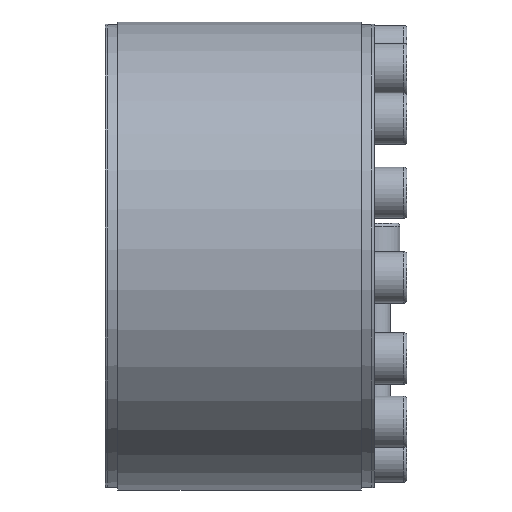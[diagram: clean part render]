
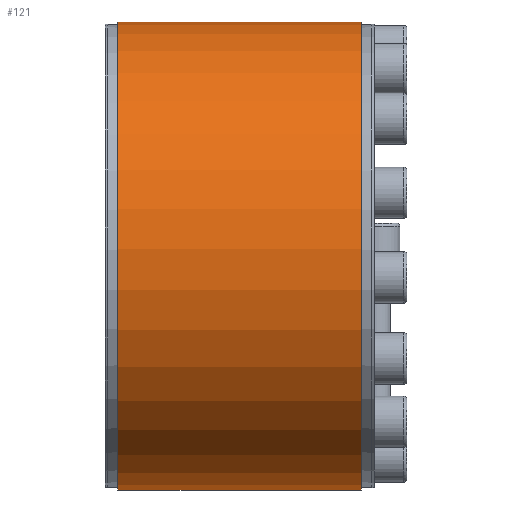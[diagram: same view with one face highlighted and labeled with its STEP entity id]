
A CAD part, left-side view. The second image highlights one B-rep face of the part: STEP entity #121.
In plain terms, the highlighted cylindrical face has radius 100 mm (diameter 200 mm), a partial arc.
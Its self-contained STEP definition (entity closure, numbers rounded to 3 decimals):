
#121 = ADVANCED_FACE( '', ( #317 ), #318, .T. );
#317 = FACE_OUTER_BOUND( '', #691, .T. );
#318 = CYLINDRICAL_SURFACE( '', #692, 100. );
#691 = EDGE_LOOP( '', ( #1112, #1113, #1114, #1115 ) );
#692 = AXIS2_PLACEMENT_3D( '', #1116, #1117, #1118 );
#1112 = ORIENTED_EDGE( '', *, *, #1697, .F. );
#1113 = ORIENTED_EDGE( '', *, *, #1698, .T. );
#1114 = ORIENTED_EDGE( '', *, *, #1699, .F. );
#1115 = ORIENTED_EDGE( '', *, *, #1700, .F. );
#1116 = CARTESIAN_POINT( '', ( 0., -60., 0. ) );
#1117 = DIRECTION( '', ( 0., 1., 0. ) );
#1118 = DIRECTION( '', ( 0., 0., -1. ) );
#1697 = EDGE_CURVE( '', #1995, #1996, #1997, .T. );
#1698 = EDGE_CURVE( '', #1995, #1998, #1999, .T. );
#1699 = EDGE_CURVE( '', #2000, #1998, #2001, .F. );
#1700 = EDGE_CURVE( '', #1996, #2000, #2002, .T. );
#1995 = VERTEX_POINT( '', #2477 );
#1996 = VERTEX_POINT( '', #2478 );
#1997 = LINE( '', #2479, #2480 );
#1998 = VERTEX_POINT( '', #2481 );
#1999 = CIRCLE( '', #2482, 100. );
#2000 = VERTEX_POINT( '', #2483 );
#2001 = LINE( '', #2484, #2485 );
#2002 = CIRCLE( '', #2486, 100. );
#2477 = CARTESIAN_POINT( '', ( 19.322, 109.5, 98.116 ) );
#2478 = CARTESIAN_POINT( '', ( 19.322, 5.5, 98.116 ) );
#2479 = CARTESIAN_POINT( '', ( 19.322, -60., 98.116 ) );
#2480 = VECTOR( '', #2913, 1000. );
#2481 = CARTESIAN_POINT( '', ( 22.256, 109.5, 97.492 ) );
#2482 = AXIS2_PLACEMENT_3D( '', #2914, #2915, #2916 );
#2483 = CARTESIAN_POINT( '', ( 22.256, 5.5, 97.492 ) );
#2484 = CARTESIAN_POINT( '', ( 22.256, -60., 97.492 ) );
#2485 = VECTOR( '', #2917, 1000. );
#2486 = AXIS2_PLACEMENT_3D( '', #2918, #2919, #2920 );
#2913 = DIRECTION( '', ( 0., -1., 0. ) );
#2914 = CARTESIAN_POINT( '', ( 0., 109.5, 0. ) );
#2915 = DIRECTION( '', ( 0., -1., 0. ) );
#2916 = DIRECTION( '', ( 0., 0., -1. ) );
#2917 = DIRECTION( '', ( 0., -1., 0. ) );
#2918 = CARTESIAN_POINT( '', ( 0., 5.5, 0. ) );
#2919 = DIRECTION( '', ( 0., -1., 0. ) );
#2920 = DIRECTION( '', ( 0., 0., -1. ) );
